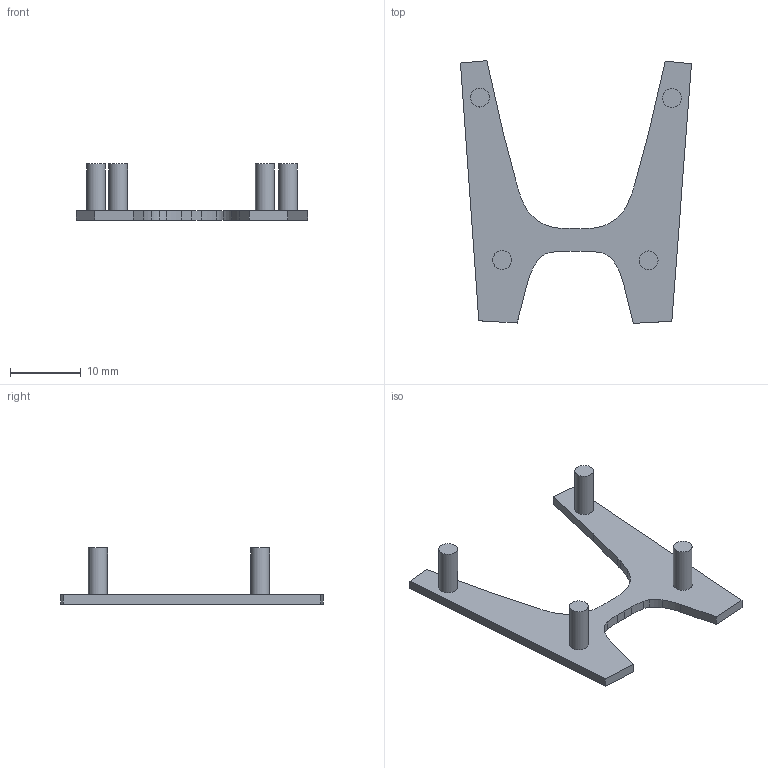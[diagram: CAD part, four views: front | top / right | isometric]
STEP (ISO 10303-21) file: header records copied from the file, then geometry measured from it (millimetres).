
FILE_DESCRIPTION(/* description */ (''),/* implementation_level */ '2;1');
FILE_NAME(/* name */ 'Inside.step',/* time_stamp */ '2024-05-20T23:39:27+02:00',/* author */ (''),/* organization */ (''),/* preprocessor_version */ 'ST-DEVELOPER v20',/* originating_system */ 'Autodesk Translation Framework v12.20.1.177',/* authorisation */ '');
FILE_SCHEMA (('AUTOMOTIVE_DESIGN { 1 0 10303 214 3 1 1 }'));
Length unit declared in the file: millimetre
Products named in the file (1): Hondaemblem
Bounding box: 32.7 x 37.18 x 7.96 mm (x, y, z)
Volume: 838.3 mm3; surface area: 1504.4 mm2
Topology: 1 solids, 1 shells, 42 faces, 108 edges, 72 vertices
Faces by surface type: plane 24, cylinder 18
Full cylindrical faces by diameter (mm): 2.652 x4
Entity records: 1328 total; most frequent: DIRECTION 230, CARTESIAN_POINT 223, ORIENTED_EDGE 216, EDGE_CURVE 108, AXIS2_PLACEMENT_3D 79, LINE 72, VECTOR 72, VERTEX_POINT 72
